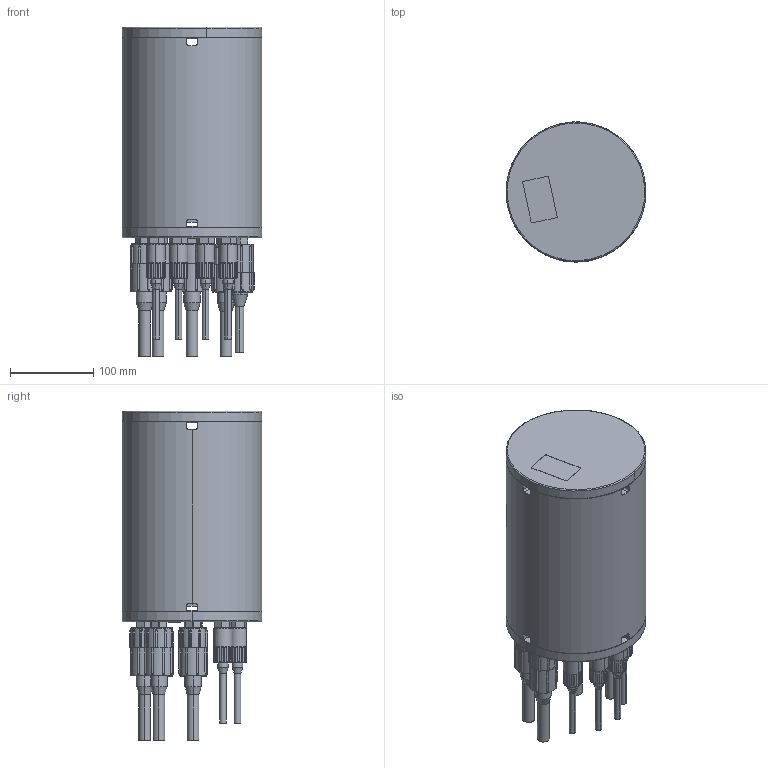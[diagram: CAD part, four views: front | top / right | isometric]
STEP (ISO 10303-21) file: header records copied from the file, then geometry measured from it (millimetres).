
FILE_DESCRIPTION (( 'STEP AP214' ), '1' );
FILE_NAME ('CC1, Simple, MarineSitu.STEP', '2026-05-08T19:00:26', ( '' ), ( '' ), 'SwSTEP 2.0', 'SolidWorks 2020', '' );
FILE_SCHEMA (( 'AUTOMOTIVE_DESIGN' ));
Length unit declared in the file: metre
Products named in the file (1): CC1, Simple, MarineSitu
Bounding box: 168.4 x 168.4 x 397.25 mm (x, y, z)
Surface area: 289269.8 mm2 (no closed solid volume)
Topology: 0 solids, 505 shells, 1992 faces, 8691 edges, 6960 vertices
Faces by surface type: plane 881, cylinder 686, bspline 272, cone 74, torus 68, sphere 11
Entity records: 127147 total; most frequent: CARTESIAN_POINT 39361, DIRECTION 12874, ORIENTED_EDGE 11407, EDGE_CURVE 8518, VERTEX_POINT 6959, VECTOR 5082, LINE 5082, AXIS2_PLACEMENT_3D 3896
